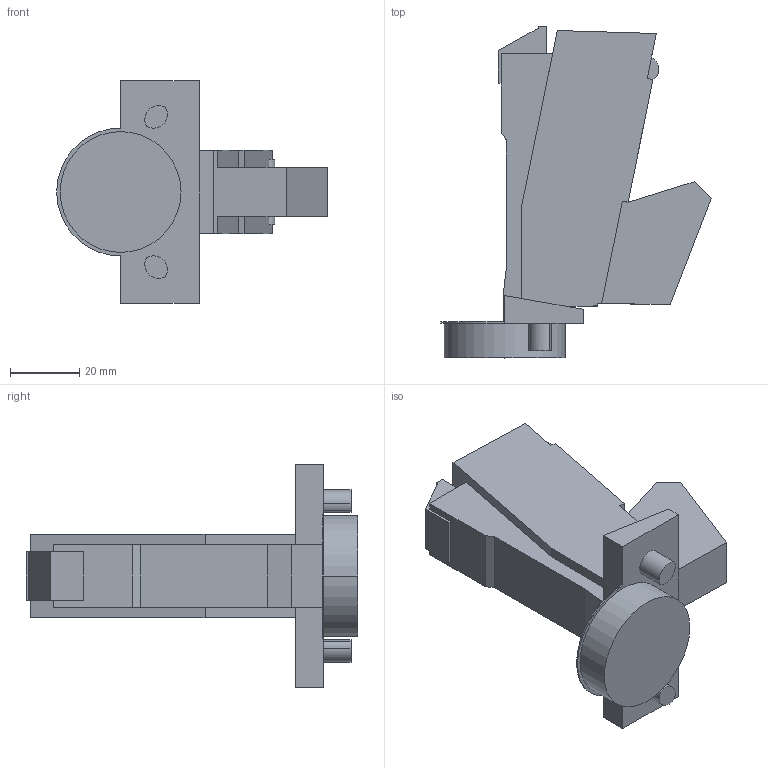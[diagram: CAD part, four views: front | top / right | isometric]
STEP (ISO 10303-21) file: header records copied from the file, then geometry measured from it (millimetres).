
FILE_DESCRIPTION (( 'STEP AP214' ), '1' );
FILE_NAME ('Scharnier TS Impresso 160° GB_BB, K03 - Neu -.step', '2019-09-17T09:15:23', ( '' ), ( '' ), 'SwSTEP 2.0', 'SolidWorks 2019', '' );
FILE_SCHEMA (( 'AUTOMOTIVE_DESIGN' ));
Length unit declared in the file: millimetre
Products named in the file (1): Scharnier TS Impresso 160° GB_BB, K03 - Neu -
Bounding box: 78.34 x 96.09 x 64.5 mm (x, y, z)
Volume: 95549 mm3; surface area: 19361.5 mm2
Topology: 1 solids, 1 shells, 62 faces, 167 edges, 110 vertices
Faces by surface type: plane 51, cylinder 11
Entity records: 1955 total; most frequent: CARTESIAN_POINT 340, ORIENTED_EDGE 334, DIRECTION 315, EDGE_CURVE 167, VECTOR 145, LINE 145, VERTEX_POINT 110, AXIS2_PLACEMENT_3D 85
